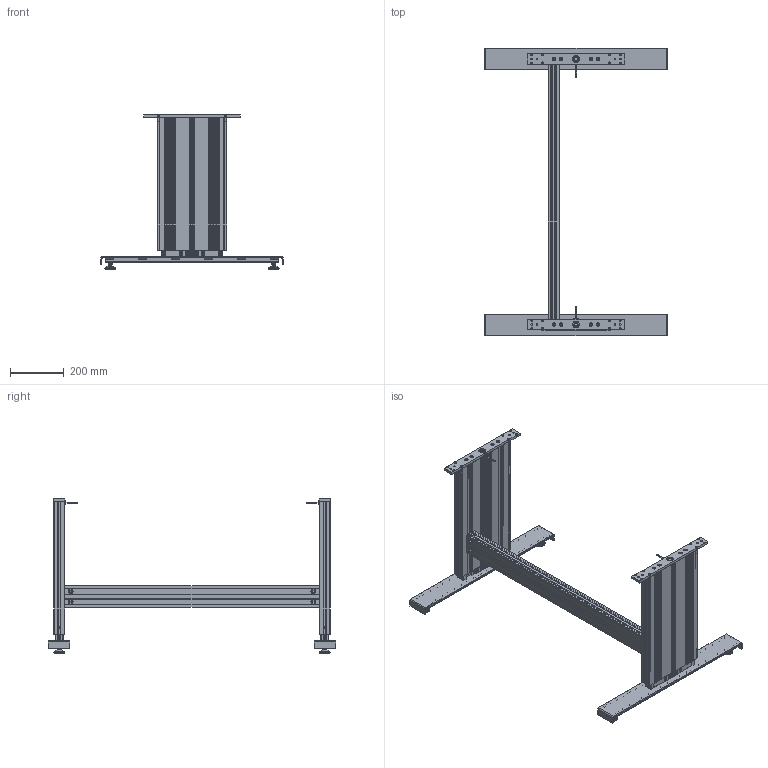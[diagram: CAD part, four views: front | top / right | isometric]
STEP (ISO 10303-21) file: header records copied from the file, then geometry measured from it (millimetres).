
FILE_DESCRIPTION(/* description */ ('Unknown'),/* implementation_level */ '2;1');
FILE_NAME(/* name */ '108.00192 Untergestell TT-2 1430 990_eingefahren',/* time_stamp */ '2017-12-04T14:18:08+01:00',/* author */ ('Unknown'),/* organization */ ('Unknown'),/* preprocessor_version */ 'ST-DEVELOPER v16.7',/* originating_system */ 'DEX',/* authorisation */ $);
FILE_SCHEMA (('AUTOMOTIVE_DESIGN {1 0 10303 214 3 1 1}'));
Products named in the file (31): 108.00192; 106.00313_oa_0; 119.00203; 119.00154; 124.00004; 142.00188; 142.00166; 142.00031; 126.00102; 107.00028_oa_1; 115.00007_oa_2; 125.00021; 125.00033; 142.00021; 113.00002_70mm; 106.00313_oa_3; 107.00028_oa_4; 115.00007_oa_5; 115.00092; 119.00172; 142.00207; 127.00515; 127.00520; 127.00556; 127.00557; 127.00520_461_469_Kehlnaht 1_oa_6; 113.00095; 113.00099; 113.00096; 113.00097; 113.00098
Assembly tree (54 placements, depth 5):
  108.00192
    106.00313_oa_0
      119.00203
      119.00154
      124.00004
      142.00188  x2
      142.00166  x4
      142.00031
      126.00102
      107.00028_oa_1
        115.00007_oa_2
        125.00021
        125.00033
        142.00021
      113.00002_70mm
    106.00313_oa_3
      119.00203
      119.00154
      124.00004
      142.00188  x2
      142.00166  x4
      142.00031
      126.00102
      107.00028_oa_4
        115.00007_oa_5
        125.00021
        125.00033
        142.00021
      113.00002_70mm
    115.00092
      119.00172
      142.00207  x4
    127.00515  x2
      127.00520
        127.00556
        127.00557
        127.00520_461_469_Kehlnaht 1_oa_6
      113.00095
        113.00099
        113.00096
          113.00097
          113.00098
Bounding box: 680 x 1070 x 576.5 mm (x, y, z)
Volume: 6338689.1 mm3; surface area: 4501910.6 mm2
Topology: 75 solids, 83 shells, 4902 faces, 13934 edges, 9262 vertices
Faces by surface type: plane 3044, cylinder 1552, cone 196, torus 76, bspline 24, sphere 10
Full cylindrical faces by diameter (mm): 1.8 x4, 2.2 x2, 2.78 x2, 3.242 x4, 3.5 x2, 4 x6, 4.1 x2, 4.2 x2, 5 x12, 5.5 x8, 6.6 x8, 6.647 x16, 6.917 x4, 7.5 x4, 8 x18, 8.376 x6, 8.5 x20, 8.7 x8, 9 x2, 10 x8, 11.3 x8, 12 x6, 12.5 x10, 13 x4, 13.5 x6, 13.7 x2, 13.9 x4, 18 x16, 25 x10, 27.2 x4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
Entity records: 85551 total; most frequent: CARTESIAN_POINT 14631, ORIENTED_EDGE 13082, DIRECTION 12741, EDGE_CURVE 6541, LINE 4481, VECTOR 4481, VERTEX_POINT 4432, AXIS2_PLACEMENT_3D 4130
